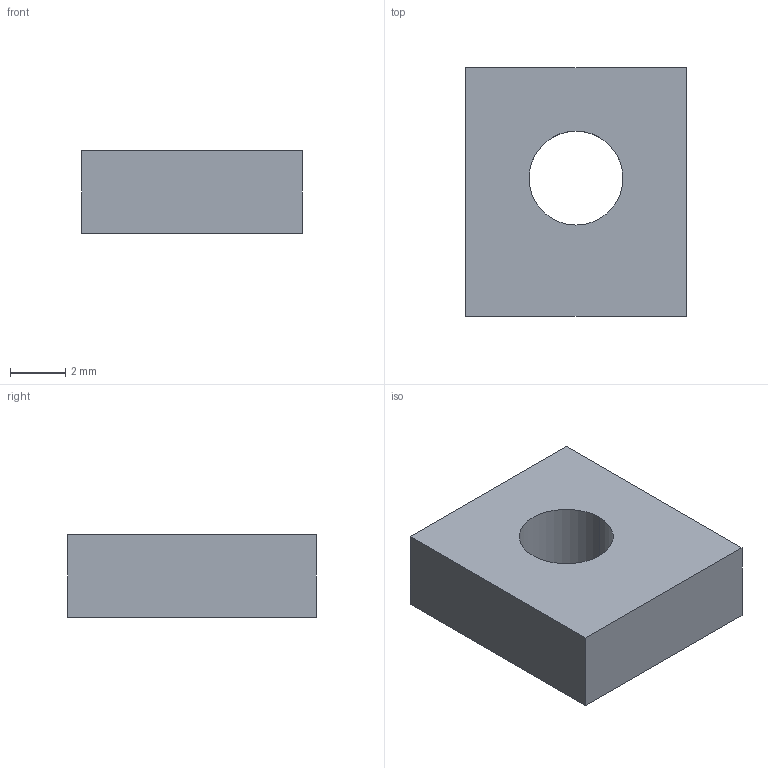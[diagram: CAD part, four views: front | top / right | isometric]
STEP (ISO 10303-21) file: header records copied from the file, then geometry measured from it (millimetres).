
FILE_DESCRIPTION (( 'STEP AP203' ), '1' );
FILE_NAME ('11_receiver_M3_edge_clip.step', '2026-10-07T08:22:34', ( '' ), ( '' ), 'SwSTEP 2.0', 'SolidWorks 2025', '' );
FILE_SCHEMA (( 'CONFIG_CONTROL_DESIGN' ));
Length unit declared in the file: millimetre
Products named in the file (1): 11_receiver_M3_edge_clip
Bounding box: 8 x 9 x 3 mm (x, y, z)
Volume: 188.8 mm3; surface area: 259.9 mm2
Topology: 1 solids, 1 shells, 8 faces, 18 edges, 12 vertices
Faces by surface type: plane 6, cylinder 2
Entity records: 307 total; most frequent: DIRECTION 40, CARTESIAN_POINT 39, ORIENTED_EDGE 36, EDGE_CURVE 18, VECTOR 14, LINE 14, AXIS2_PLACEMENT_3D 13, VERTEX_POINT 12
